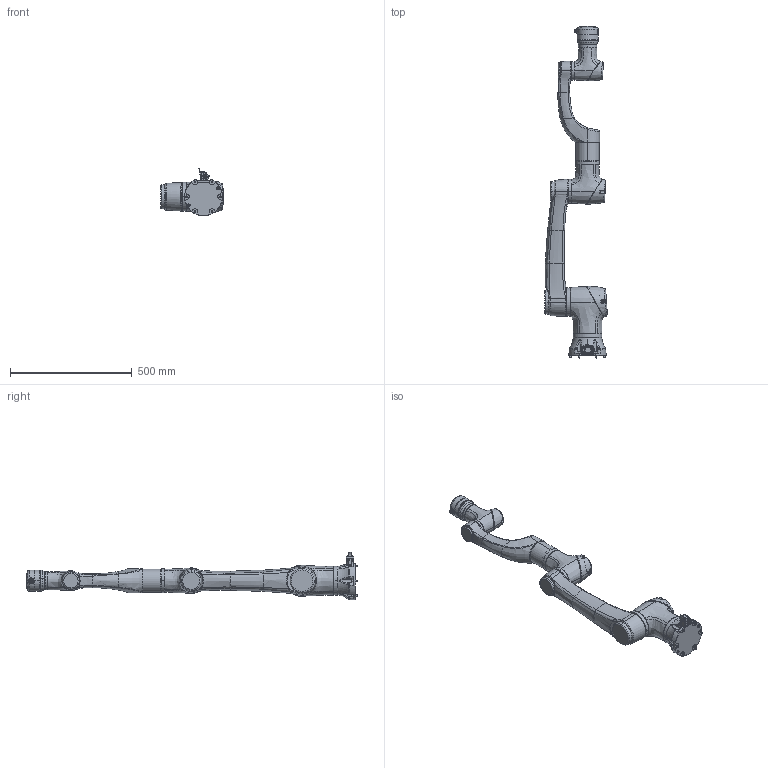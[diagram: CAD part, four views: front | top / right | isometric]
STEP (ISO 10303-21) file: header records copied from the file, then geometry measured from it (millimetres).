
FILE_DESCRIPTION (( 'STEP AP203' ), '1' );
FILE_NAME ('E05L-pro儂迮忒_20230227.STEP', '2023-03-06T00:19:35', ( '' ), ( '' ), 'SwSTEP 2.0', 'SolidWorks 2020', '' );
FILE_SCHEMA (( 'CONFIG_CONTROL_DESIGN' ));
Length unit declared in the file: millimetre
Products named in the file (31): 20耀郪妗昜耀倰_20220705; 20模组后端盖模型_20220705_原始; Elfin_菁釱郪璃_脣芛釱_IP66_20190806_1.1; HREF-01-03-31A3 5kg奻旋階裔_IP66_潠趙; 5kg菁釱耀倰_20220706; HREF-01-04-03-122A1 14轴端垫圈_IP66_简化; 25axial_module_耀倰_20220705; 14_一体化力矩末端2.0_简化_20230227; 20axial_module_耀倰_20220705; E05L-pro儂迮忒_20230227; 5kg狟旋狟耜裔耀倰_20220706; M3x28_CB3-16; M3x20_20190806_1.1_CB3-14; HREF-01-04-01-165A1 25壽誹俋褲YZ; E05-L_IP54 下臂组件_实物模型_20220706; M3x14_IP66_20190806_2.0_CB3-16; Elfin_菁釱郪璃_脣芛裔_IP66_20190806_1.1; E05_菁釱郪璃耀倰_20220706; E05-L奻旋耀倰_20220707; Elfin_菁釱脣芛_IP66_20190806_1.1; E05-L_IP54 狟旋耀倰_20220714; HREF-01-04-01-203A1 25模组后端盖_增加锥形孔; GB／T70．1-2000内六角圆柱头螺钉M6×20; HREF-01-04-03-187A1 14耀郪綴傷裔_潠趙; 5kg狟旋奻耜裔耀倰_20220706; HREF-01-03-324A 14关节外壳（砂纹白）_简化; 14粣_酗粣_IP66_潠趙; E05-L奻旋耀倰_20220705; M3x10_20190806_1.1_CB3-14; Elfin_底座组件_插头卡环_IP66_20190806_1.1; 5kg奻旋耜裔耀倰_20220706
Assembly tree (42 placements, depth 4):
  E05L-pro儂迮忒_20230227
    E05_菁釱郪璃耀倰_20220706
      Elfin_菁釱脣芛_IP66_20190806_1.1
        Elfin_菁釱郪璃_脣芛釱_IP66_20190806_1.1
        Elfin_菁釱郪璃_脣芛裔_IP66_20190806_1.1
        Elfin_底座组件_插头卡环_IP66_20190806_1.1
      5kg菁釱耀倰_20220706
    25axial_module_耀倰_20220705
      M3x14_IP66_20190806_2.0_CB3-16  x4
      HREF-01-04-01-165A1 25壽誹俋褲YZ
      HREF-01-04-01-203A1 25模组后端盖_增加锥形孔
    E05-L_IP54 下臂组件_实物模型_20220706
      5kg狟旋狟耜裔耀倰_20220706
      5kg狟旋奻耜裔耀倰_20220706
      E05-L_IP54 狟旋耀倰_20220714
    20axial_module_耀倰_20220705
      M3x20_20190806_1.1_CB3-14  x2
      M3x10_20190806_1.1_CB3-14  x2
      20耀郪妗昜耀倰_20220705
      20模组后端盖模型_20220705_原始
    E05-L奻旋耀倰_20220705
      E05-L奻旋耀倰_20220707
      5kg奻旋耜裔耀倰_20220706
      HREF-01-03-31A3 5kg奻旋階裔_IP66_潠趙
    14粣_酗粣_IP66_潠趙
      HREF-01-03-324A 14关节外壳（砂纹白）_简化
      HREF-01-04-03-122A1 14轴端垫圈_IP66_简化  x2
      HREF-01-04-03-187A1 14耀郪綴傷裔_潠趙
      M3x28_CB3-16  x2
    GB／T70．1-2000内六角圆柱头螺钉M6×20  x6
    14_一体化力矩末端2.0_简化_20230227
Bounding box: 257.45 x 1363.8 x 194.91 mm (x, y, z)
Volume: 12535381.4 mm3; surface area: 995348.5 mm2
Topology: 72 solids, 77 shells, 3402 faces, 8130 edges, 5003 vertices
Faces by surface type: plane 997, bspline 985, cylinder 819, cone 356, torus 237, sphere 8
Entity records: 261925 total; most frequent: CARTESIAN_POINT 192824, ORIENTED_EDGE 15040, DIRECTION 11573, EDGE_CURVE 7520, VERTEX_POINT 4675, AXIS2_PLACEMENT_3D 4672, EDGE_LOOP 3419, ADVANCED_FACE 3142
